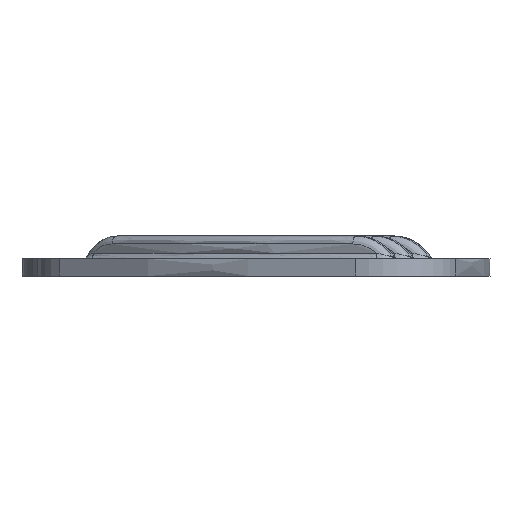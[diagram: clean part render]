
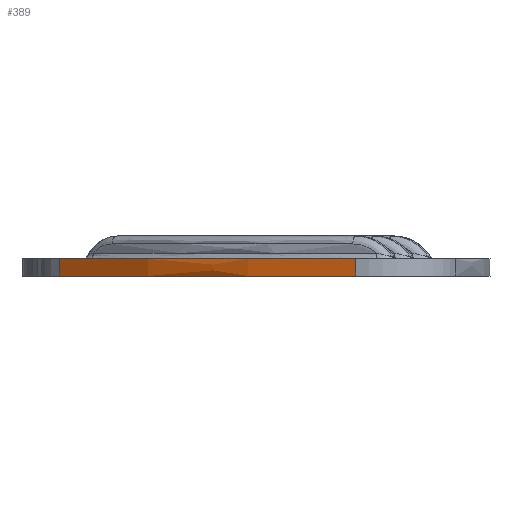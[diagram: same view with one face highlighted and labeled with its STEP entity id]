
A CAD part, front view. The second image highlights one B-rep face of the part: STEP entity #389.
In plain terms, the highlighted face is a extrusion surface.
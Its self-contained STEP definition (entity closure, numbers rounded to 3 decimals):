
#232=SURFACE_OF_LINEAR_EXTRUSION('',#600,#836);
#242=FACE_OUTER_BOUND('',#936,.T.);
#389=ADVANCED_FACE('',(#242),#232,.T.);
#553=B_SPLINE_CURVE_WITH_KNOTS('',3,(#3074,#3075,#3076,#3077,#3078,#3079,
#3080,#3081),.UNSPECIFIED.,.F.,.F.,(4,3,1,4),(0.,0.525,0.848,
1.),.UNSPECIFIED.);
#563=B_SPLINE_CURVE_WITH_KNOTS('',3,(#3227,#3228,#3229,#3230,#3231,#3232,
#3233,#3234),.UNSPECIFIED.,.F.,.F.,(4,3,1,4),(0.,0.525,0.848,
1.),.UNSPECIFIED.);
#600=B_SPLINE_CURVE_WITH_KNOTS('',3,(#3777,#3778,#3779,#3780,#3781,#3782,
#3783,#3784),.UNSPECIFIED.,.F.,.F.,(4,3,1,4),(0.,0.525,0.848,
1.),.UNSPECIFIED.);
#770=LINE('',#3775,#834);
#771=LINE('',#3776,#835);
#834=VECTOR('',#2734,1.);
#835=VECTOR('',#2735,1.);
#836=VECTOR('',#2736,1.);
#936=EDGE_LOOP('',(#1204,#1205,#1206,#1207));
#1204=ORIENTED_EDGE('',*,*,#2049,.F.);
#1205=ORIENTED_EDGE('',*,*,#2113,.T.);
#1206=ORIENTED_EDGE('',*,*,#2020,.T.);
#1207=ORIENTED_EDGE('',*,*,#2114,.T.);
#1805=VERTEX_POINT('',#3073);
#1806=VERTEX_POINT('',#3082);
#1834=VERTEX_POINT('',#3226);
#1835=VERTEX_POINT('',#3235);
#2020=EDGE_CURVE('',#1806,#1805,#553,.T.);
#2049=EDGE_CURVE('',#1834,#1835,#563,.T.);
#2113=EDGE_CURVE('',#1834,#1806,#770,.T.);
#2114=EDGE_CURVE('',#1805,#1835,#771,.T.);
#2734=DIRECTION('',(0.,0.,-1.));
#2735=DIRECTION('',(0.,0.,1.));
#2736=DIRECTION('',(0.,0.,1.));
#3073=CARTESIAN_POINT('',(31.999,-10.982,37.238));
#3074=CARTESIAN_POINT('',(2.034,8.303,37.238));
#3075=CARTESIAN_POINT('',(6.979,2.715,37.238));
#3076=CARTESIAN_POINT('',(12.985,-2.067,37.238));
#3077=CARTESIAN_POINT('',(19.523,-5.609,37.238));
#3078=CARTESIAN_POINT('',(23.741,-7.893,37.238));
#3079=CARTESIAN_POINT('',(30.138,-10.702,37.238));
#3080=CARTESIAN_POINT('',(36.622,-12.251,37.238));
#3081=CARTESIAN_POINT('',(38.708,-12.601,37.238));
#3082=CARTESIAN_POINT('',(6.064,4.146,37.238));
#3226=CARTESIAN_POINT('',(6.064,4.146,38.738));
#3227=CARTESIAN_POINT('',(2.034,8.303,38.738));
#3228=CARTESIAN_POINT('',(6.979,2.715,38.738));
#3229=CARTESIAN_POINT('',(12.985,-2.067,38.738));
#3230=CARTESIAN_POINT('',(19.523,-5.609,38.738));
#3231=CARTESIAN_POINT('',(23.741,-7.893,38.738));
#3232=CARTESIAN_POINT('',(30.138,-10.702,38.738));
#3233=CARTESIAN_POINT('',(36.622,-12.251,38.738));
#3234=CARTESIAN_POINT('',(38.708,-12.601,38.738));
#3235=CARTESIAN_POINT('',(31.999,-10.982,38.738));
#3775=CARTESIAN_POINT('',(6.064,4.146,38.738));
#3776=CARTESIAN_POINT('',(31.999,-10.982,37.238));
#3777=CARTESIAN_POINT('',(2.034,8.303,37.238));
#3778=CARTESIAN_POINT('',(6.979,2.715,37.238));
#3779=CARTESIAN_POINT('',(12.985,-2.067,37.238));
#3780=CARTESIAN_POINT('',(19.523,-5.609,37.238));
#3781=CARTESIAN_POINT('',(23.741,-7.893,37.238));
#3782=CARTESIAN_POINT('',(30.138,-10.702,37.238));
#3783=CARTESIAN_POINT('',(36.622,-12.251,37.238));
#3784=CARTESIAN_POINT('',(38.708,-12.601,37.238));
